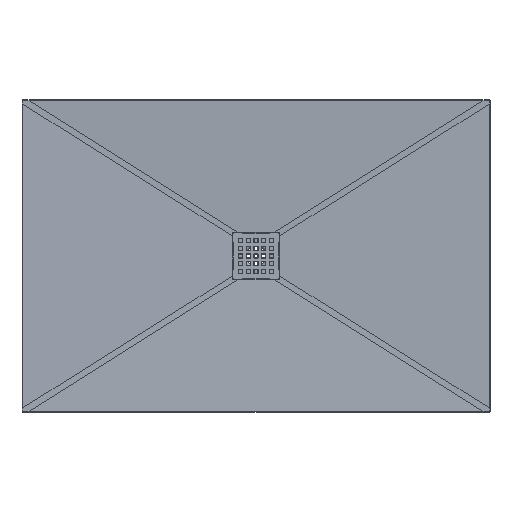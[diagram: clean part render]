
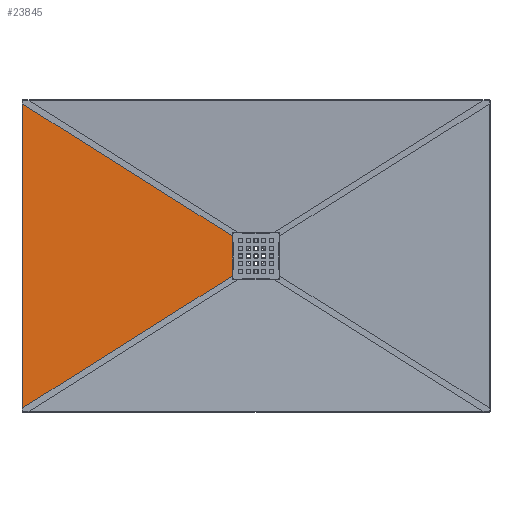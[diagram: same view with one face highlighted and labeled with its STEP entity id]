
A CAD part, top view. The second image highlights one B-rep face of the part: STEP entity #23845.
In plain terms, the highlighted free-form (B-spline) face has degree [1, 1] with [2, 2] control points.
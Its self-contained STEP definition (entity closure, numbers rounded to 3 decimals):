
#860 = CARTESIAN_POINT ( 'NONE',  ( -60.972, -51.376, -14.973 ) ) ;
#1217 = ORIENTED_EDGE ( 'NONE', *, *, #12562, .F. ) ;
#1236 = CARTESIAN_POINT ( 'NONE',  ( -60.972, 39.026, -14.973 ) ) ;
#1263 = CARTESIAN_POINT ( 'NONE',  ( -248.091, 169.191, -9.775 ) ) ;
#1377 = CARTESIAN_POINT ( 'NONE',  ( -597.944, 389.469, -0.057 ) ) ;
#1634 = CARTESIAN_POINT ( 'NONE',  ( -280.177, 189.394, -8.884 ) ) ;
#1829 = CARTESIAN_POINT ( 'NONE',  ( -128.695, 94.016, -13.092 ) ) ;
#2027 = CARTESIAN_POINT ( 'NONE',  ( -60.972, 51.376, -14.973 ) ) ;
#2520 = CARTESIAN_POINT ( 'NONE',  ( -418.969, -276.781, -5.029 ) ) ;
#3015 = CARTESIAN_POINT ( 'NONE',  ( -597.944, 211.891, -0.057 ) ) ;
#3424 = CARTESIAN_POINT ( 'NONE',  ( -60.972, 51.376, -14.973 ) ) ;
#4155 = CARTESIAN_POINT ( 'NONE',  ( -62.168, 52.129, -14.94 ) ) ;
#4441 = CARTESIAN_POINT ( 'NONE',  ( -597.945, 389.47, -0.057 ) ) ;
#4644 = CARTESIAN_POINT ( 'NONE',  ( -147.451, -105.825, -12.571 ) ) ;
#4811 = CARTESIAN_POINT ( 'NONE',  ( -60.971, -59.207, -14.973 ) ) ;
#4827 = CARTESIAN_POINT ( 'NONE',  ( -222.508, -153.084, -10.486 ) ) ;
#5542 = CARTESIAN_POINT ( 'NONE',  ( -597.944, 389.469, -0.057 ) ) ;
#7451 = CARTESIAN_POINT ( 'NONE',  ( -60.972, 4.775, -14.973 ) ) ;
#7482 = CARTESIAN_POINT ( 'NONE',  ( -66.692, 54.977, -14.814 ) ) ;
#7585 = CARTESIAN_POINT ( 'NONE',  ( -60.972, -51.376, -14.973 ) ) ;
#7857 = CARTESIAN_POINT ( 'NONE',  ( -111.451, 83.159, -13.571 ) ) ;
#7959 = CARTESIAN_POINT ( 'NONE',  ( -280.177, -189.394, -8.884 ) ) ;
#8044 = CARTESIAN_POINT ( 'NONE',  ( -526.976, 344.785, -2.028 ) ) ;
#8159 = CARTESIAN_POINT ( 'NONE',  ( -97.837, -74.587, -13.949 ) ) ;
#8677 = CARTESIAN_POINT ( 'NONE',  ( -597.944, -389.469, -0.057 ) ) ;
#9272 = EDGE_CURVE ( 'NONE', #13558, #25337, #20978, .T. ) ;
#12562 = EDGE_CURVE ( 'NONE', #25337, #19196, #21735, .T. ) ;
#13297 = CARTESIAN_POINT ( 'NONE',  ( -60.972, 51.376, -14.973 ) ) ;
#13503 = CARTESIAN_POINT ( 'NONE',  ( -222.508, 153.084, -10.486 ) ) ;
#13558 = VERTEX_POINT ( 'NONE', #1377 ) ;
#13609 = CARTESIAN_POINT ( 'NONE',  ( -573.723, -374.219, -0.73 ) ) ;
#13807 = CARTESIAN_POINT ( 'NONE',  ( -195.568, -136.121, -11.234 ) ) ;
#14087 = CARTESIAN_POINT ( 'NONE',  ( -597.944, -389.469, -0.057 ) ) ;
#16025 = CARTESIAN_POINT ( 'NONE',  ( -597.944, 389.469, -0.057 ) ) ;
#17068 = CARTESIAN_POINT ( 'NONE',  ( -353.863, -235.789, -6.837 ) ) ;
#17254 = CARTESIAN_POINT ( 'NONE',  ( -111.451, -83.159, -13.571 ) ) ;
#18885 = CARTESIAN_POINT ( 'NONE',  ( -60.972, -29.475, -14.973 ) ) ;
#19095 = CARTESIAN_POINT ( 'NONE',  ( -467.042, 307.049, -3.693 ) ) ;
#19196 = VERTEX_POINT ( 'NONE', #33490 ) ;
#19582 = CARTESIAN_POINT ( 'NONE',  ( -467.042, -307.049, -3.693 ) ) ;
#19849 = CARTESIAN_POINT ( 'NONE',  ( -74.846, 60.111, -14.588 ) ) ;
#19901 = CARTESIAN_POINT ( 'NONE',  ( -597.944, -47.755, -0.057 ) ) ;
#20152 = CARTESIAN_POINT ( 'NONE',  ( -128.695, -94.016, -13.092 ) ) ;
#20491 = CARTESIAN_POINT ( 'NONE',  ( -597.944, -307.401, -0.057 ) ) ;
#20554 = ORIENTED_EDGE ( 'NONE', *, *, #36760, .T. ) ;
#20978 = B_SPLINE_CURVE_WITH_KNOTS ( 'NONE', 3,
 ( #16025, #22575, #8044, #19095, #37474, #34150, #28175, #37293, #1634, #1263, #13503, #36727, #25273, #30873, #1829, #7857, #28563, #33952, #19849, #7482, #4155, #2027 ),
 .UNSPECIFIED., .F., .F.,
 ( 4, 1, 1, 1, 1, 1, 1, 1, 1, 1, 1, 1, 1, 1, 1, 1, 1, 1, 1, 4 ),
 ( 2.43, 88.322, 168.201, 214.959, 258.796, 280.714, 333.317, 385.729, 415.079, 447.098, 476.448, 510.612, 534.213, 559.96, 577.124, 595.361, 608.235, 621.108, 632.908, 637.149 ),
 .UNSPECIFIED. ) ;
#21396 = ORIENTED_EDGE ( 'NONE', *, *, #9272, .F. ) ;
#21735 = B_SPLINE_CURVE_WITH_KNOTS ( 'NONE', 3,
 ( #13297, #1236, #7451, #18885, #860 ),
 .UNSPECIFIED., .F., .F.,
 ( 4, 1, 4 ),
 ( 0., 37.05, 102.752 ),
 .UNSPECIFIED. ) ;
#21963 = B_SPLINE_CURVE_WITH_KNOTS ( 'NONE', 3,
 ( #8677, #20491, #19901, #3015, #5542 ),
 .UNSPECIFIED., .F., .F.,
 ( 4, 1, 4 ),
 ( 0., 246.205, 778.939 ),
 .UNSPECIFIED. ) ;
#22575 = CARTESIAN_POINT ( 'NONE',  ( -573.723, 374.219, -0.73 ) ) ;
#23055 = CARTESIAN_POINT ( 'NONE',  ( -74.846, -60.111, -14.588 ) ) ;
#23845 = ADVANCED_FACE ( 'NONE', ( #30218 ), #35084, .F. ) ;
#25273 = CARTESIAN_POINT ( 'NONE',  ( -171.001, 120.653, -11.917 ) ) ;
#25337 = VERTEX_POINT ( 'NONE', #3424 ) ;
#25376 = CARTESIAN_POINT ( 'NONE',  ( -387.24, -256.804, -5.91 ) ) ;
#25751 = CARTESIAN_POINT ( 'NONE',  ( -62.168, -52.129, -14.94 ) ) ;
#27686 = CARTESIAN_POINT ( 'NONE',  ( -597.945, -389.47, -0.057 ) ) ;
#28175 = CARTESIAN_POINT ( 'NONE',  ( -353.863, 235.789, -6.837 ) ) ;
#28279 = CARTESIAN_POINT ( 'NONE',  ( -318.068, -213.251, -7.831 ) ) ;
#28563 = CARTESIAN_POINT ( 'NONE',  ( -97.837, 74.587, -13.949 ) ) ;
#30218 = FACE_OUTER_BOUND ( 'NONE', #38296, .T. ) ;
#30873 = CARTESIAN_POINT ( 'NONE',  ( -147.451, 105.825, -12.571 ) ) ;
#31170 = CARTESIAN_POINT ( 'NONE',  ( -526.976, -344.785, -2.028 ) ) ;
#31355 = CARTESIAN_POINT ( 'NONE',  ( -248.091, -169.191, -9.775 ) ) ;
#31929 = CARTESIAN_POINT ( 'NONE',  ( -66.692, -54.977, -14.814 ) ) ;
#33018 = ORIENTED_EDGE ( 'NONE', *, *, #37283, .F. ) ;
#33490 = CARTESIAN_POINT ( 'NONE',  ( -60.972, -51.376, -14.973 ) ) ;
#33668 = CARTESIAN_POINT ( 'NONE',  ( -60.971, 59.207, -14.973 ) ) ;
#33952 = CARTESIAN_POINT ( 'NONE',  ( -85.434, 66.778, -14.293 ) ) ;
#34150 = CARTESIAN_POINT ( 'NONE',  ( -387.24, 256.804, -5.91 ) ) ;
#34634 = CARTESIAN_POINT ( 'NONE',  ( -171.001, -120.653, -11.917 ) ) ;
#34840 = CARTESIAN_POINT ( 'NONE',  ( -597.944, -389.469, -0.057 ) ) ;
#35084 = B_SPLINE_SURFACE_WITH_KNOTS ( 'NONE', 1, 1, ( 
 ( #27686, #4811 ),
 ( #4441, #33668 ) ),
 .UNSPECIFIED., .F., .F., .F.,
 ( 2, 2 ),
 ( 2, 2 ),
 ( 0., 781.467 ),
 ( 0., 1. ),
 .UNSPECIFIED. ) ;
#35498 = VERTEX_POINT ( 'NONE', #14087 ) ;
#36727 = CARTESIAN_POINT ( 'NONE',  ( -195.568, 136.121, -11.234 ) ) ;
#36760 = EDGE_CURVE ( 'NONE', #35498, #19196, #38221, .T. ) ;
#37283 = EDGE_CURVE ( 'NONE', #35498, #13558, #21963, .T. ) ;
#37293 = CARTESIAN_POINT ( 'NONE',  ( -318.068, 213.251, -7.831 ) ) ;
#37474 = CARTESIAN_POINT ( 'NONE',  ( -418.969, 276.781, -5.029 ) ) ;
#37981 = CARTESIAN_POINT ( 'NONE',  ( -85.434, -66.778, -14.293 ) ) ;
#38221 = B_SPLINE_CURVE_WITH_KNOTS ( 'NONE', 3,
 ( #34840, #13609, #31170, #19582, #2520, #25376, #17068, #28279, #7959, #31355, #4827, #13807, #34634, #4644, #20152, #17254, #8159, #37981, #23055, #31929, #25751, #7585 ),
 .UNSPECIFIED., .F., .F.,
 ( 4, 1, 1, 1, 1, 1, 1, 1, 1, 1, 1, 1, 1, 1, 1, 1, 1, 1, 1, 4 ),
 ( 2.43, 88.322, 168.201, 214.959, 258.796, 280.714, 333.317, 385.729, 415.079, 447.098, 476.448, 510.612, 534.213, 559.96, 577.124, 595.361, 608.235, 621.108, 632.908, 637.149 ),
 .UNSPECIFIED. ) ;
#38296 = EDGE_LOOP ( 'NONE', ( #21396, #33018, #20554, #1217 ) ) ;
